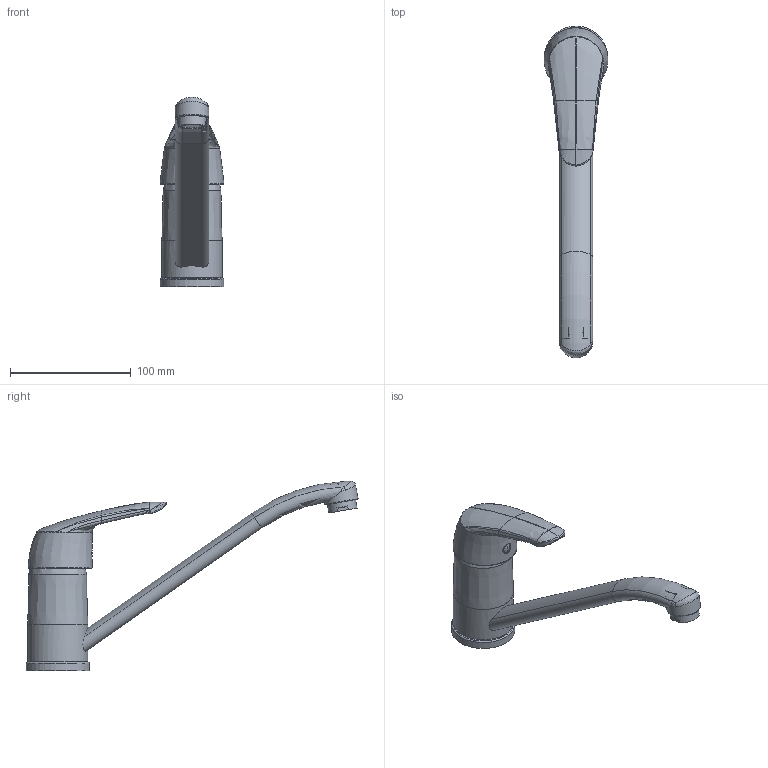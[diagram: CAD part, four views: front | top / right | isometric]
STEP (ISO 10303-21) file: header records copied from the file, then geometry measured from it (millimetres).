
FILE_DESCRIPTION(/* description */ (''),/* implementation_level */ '2;1');
FILE_NAME(/* name */ '\\Serverwts01\wts\Uff.Tecnico\3D\ASSIEMI\56541\56541.stp',/* time_stamp */ '2015-11-17T09:45:44+01:00',/* author */ ('d.mazza'),/* organization */ (''),/* preprocessor_version */ 'ST-DEVELOPER v15.2',/* originating_system */ 'Autodesk Inventor 2014',/* authorisation */ '');
FILE_SCHEMA (('AUTOMOTIVE_DESIGN { 1 0 10303 214 3 1 1 }'));
Products named in the file (21): 09_371_Basetta per bocca girevole Ø50; 08_363_86L1010000_Guarnizione_Gako_44.5x35.5x4.4x4; 08_364_Antifrizione Ø46-Ø43-h1,6; 09_094_Bicchiere copri cartuccia DE; 45F5300000_ Corpo Mix BG Ø50-W42x19; 22F0065000_BG_50; 55F0515101_COMP. BG. D50 C-BAS-SET; 86D01000KX_Cartuccia senza distributore Kerox Ø40; BK40_FEDEL; K40HWSKARTARTO; K40_HWS_GYURU; 86D010DB00_Cartuccia D40 S-Distr KN Dark Blu; 86E0200000; 86I0101000; Areatore rivestimento; Areatore gomma; Areatore; Areatore M24x1; 84A0261000_08_095_Leva Brenta; 08_362_86B1100000_Bottoncino_rosso_bluØ6; 56541
Bounding box: 52.9 x 275.39 x 157.22 mm (x, y, z)
Volume: 197816.2 mm3; surface area: 141913.2 mm2
Topology: 19 solids, 19 shells, 2329 faces, 6234 edges, 4008 vertices
Faces by surface type: plane 1689, cylinder 266, bspline 245, torus 77, cone 42, sphere 10
Full cylindrical faces by diameter (mm): 4 x2, 4.134 x1, 5 x2, 5.2 x2, 5.5 x2, 6.647 x1, 7 x4, 8 x2, 8.917 x2, 9 x2, 10.7 x2, 16 x2, 17.5 x1, 18.8 x1, 20 x1, 20.9 x1, 21 x3, 21.2 x1, 22.917 x1, 23.5 x1, 23.8 x1, 24.15 x1, 24.5 x1, 25 x1, 25.7 x1, 25.75 x2, 25.8 x2, 27 x1, 28 x1, 30.6 x1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
Entity records: 85050 total; most frequent: CARTESIAN_POINT 28851, ORIENTED_EDGE 12034, DIRECTION 10469, EDGE_CURVE 6017, LINE 4463, VECTOR 4463, VERTEX_POINT 3962, AXIS2_PLACEMENT_3D 3003
